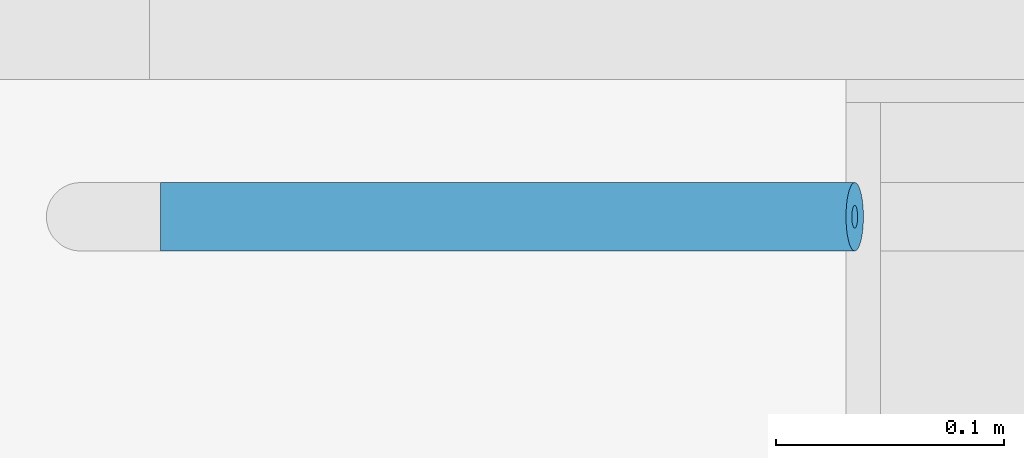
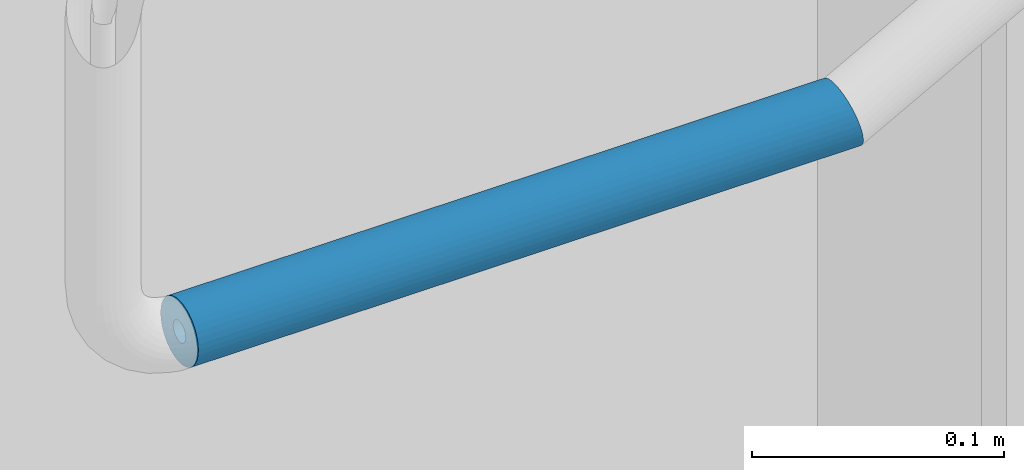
# One storey, part 218 of 301: 1 building element part, 1 element without a shape of its own.
"""IFC2X3 building model written with IfcOpenShell, lengths in millimetres."""

from ifc_helpers import new_model, entity, si_unit, converted_unit, derived_unit, money_unit, direction, frame, origin_with_axes, place, context, subcontext, project, spatial, faceted_brep, material, type_object, element, aggregate, save


model = new_model("IFC2X3")

# Units and contexts
model_context = context("Model", 3, precision=0.01, world=origin_with_axes(), true_north=direction((0.0, 1.0)))
body_context = subcontext(model_context, "Body", "Model", "MODEL_VIEW")
ifc_project = project(units=[si_unit("LENGTHUNIT", "METRE", prefix="MILLI"), si_unit("AREAUNIT", "SQUARE_METRE"), si_unit("VOLUMEUNIT", "CUBIC_METRE"), converted_unit("PLANEANGLEUNIT", "DEGREE", entity("IfcPlaneAngleMeasure", 0.0174532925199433), si_unit("PLANEANGLEUNIT", "RADIAN"), dimensions=[0, 0, 0, 0, 0, 0, 0]), money_unit("EUR"), converted_unit("TIMEUNIT", "Year", entity("IfcTimeMeasure", 31557600.0), si_unit("TIMEUNIT", "SECOND"), dimensions=[0, 0, 1, 0, 0, 0, 0]), si_unit("MASSUNIT", "GRAM", prefix="KILO"), si_unit("THERMODYNAMICTEMPERATUREUNIT", "DEGREE_CELSIUS"), si_unit("LUMINOUSINTENSITYUNIT", "LUMEN"), si_unit("ENERGYUNIT", "JOULE", prefix="MEGA"), derived_unit("THERMALCONDUCTANCEUNIT", [(si_unit("POWERUNIT", "WATT"), 1), (si_unit("LENGTHUNIT", "METRE"), -1), (si_unit("THERMODYNAMICTEMPERATUREUNIT", "KELVIN"), -1)]), derived_unit("SPECIFICHEATCAPACITYUNIT", [(si_unit("ENERGYUNIT", "JOULE"), 1), (si_unit("MASSUNIT", "GRAM", prefix="KILO"), -1), (si_unit("THERMODYNAMICTEMPERATUREUNIT", "KELVIN"), -1)]), derived_unit("MASSDENSITYUNIT", [(si_unit("MASSUNIT", "GRAM", prefix="KILO"), 1), (si_unit("VOLUMEUNIT", "CUBIC_METRE"), -1)])], contexts=[model_context])

# Site, building, storey
site_placement = place(None, frame((0.0, 0.0, 8650.0), z_axis=(0.0, 0.0, 1.0), x_axis=(1.0, 0.0, 0.0)))
site = spatial("IfcSite", under=ifc_project, at=site_placement, Name="43301:001:0844", CompositionType="ELEMENT")
building_placement = place(site_placement, origin_with_axes())
building = spatial("IfcBuilding", under=site, at=building_placement, Name="Kuressaare Ametikooli tuulikute mehaanikute õppekorpus", CompositionType="ELEMENT")
storey_placement = place(building_placement, origin_with_axes())
storey = spatial("IfcBuildingStorey", under=building, at=storey_placement, Name="1.korrus", CompositionType="ELEMENT", Elevation=0.0)

# Railing, building element part
railing_type = type_object("IfcRailingType", Name="Railing Type", PredefinedType="NOTDEFINED")
railing_placement = place(storey_placement, frame((107882.9493746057, 28359.57374875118, 157.6923606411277), z_axis=(0.0, 0.0, 1.0), x_axis=(1.0, 0.0, 0.0)))
railing = element("IfcRailing", 1, at=railing_placement, inside=storey, type_object=railing_type, Name="Piire", PredefinedType="NOTDEFINED")
ifc_material = material(Name="Metall - Teras - Roostevaba")
building_element_part_placement = place(railing_placement, origin_with_axes())
building_element_part = element("IfcBuildingElementPart", 2, at=building_element_part_placement, material=ifc_material, Name="Metall - Teras - Roostevaba", context=body_context, shape_type="Brep", body=[
    faceted_brep([(-917.032179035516, -75.0000000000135, 684.9999999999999), (-917.6945623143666, -74.77211629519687, 687.6047226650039), (-1220.846692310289, -74.77211629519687, 687.6047226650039), (-1220.846692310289, -75.0000000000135, 684.9999999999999), (-916.3697957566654, -74.77211629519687, 682.3952773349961), (-915.7275386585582, -74.09538931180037, 679.869697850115), (-915.1249223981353, -72.9903810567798, 677.5), (-914.5802571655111, -71.49066664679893, 675.3581858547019), (-914.1100923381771, -69.64181414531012, 673.5093333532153), (-913.7287136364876, -67.50000000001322, 672.0096189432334), (-913.4477090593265, -65.13030214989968, 670.9046106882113), (-913.2756167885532, -62.60472266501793, 670.2278837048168), (-913.2176657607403, -60.00000000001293, 669.9999999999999), (-913.2756167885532, -57.39527733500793, 670.2278837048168), (-913.4477090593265, -54.86969785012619, 670.9046106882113), (-913.7287136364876, -52.50000000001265, 672.0096189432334), (-914.1100923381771, -50.35818585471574, 673.5093333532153), (-914.5802571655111, -48.50933335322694, 675.3581858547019), (-915.1249223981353, -47.00961894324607, 677.5), (-915.7275386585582, -45.90461068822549, 679.869697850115), (-916.3697957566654, -45.227883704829, 682.395277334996), (-917.032179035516, -45.00000000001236, 684.9999999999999), (-917.6945623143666, -45.227883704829, 687.6047226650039), (-918.3368194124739, -45.90461068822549, 690.130302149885), (-918.939435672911, -47.00961894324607, 692.5), (-919.484100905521, -48.50933335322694, 694.641814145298), (-919.954265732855, -50.35818585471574, 696.4906666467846), (-920.3356444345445, -52.50000000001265, 697.9903810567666), (-920.6166490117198, -54.86969785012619, 699.0953893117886), (-920.7887412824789, -57.39527733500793, 699.7721162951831), (-920.8466923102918, -60.00000000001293, 700.0), (-920.7887412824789, -62.60472266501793, 699.7721162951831), (-920.6166490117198, -65.13030214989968, 699.0953893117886), (-920.3356444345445, -67.50000000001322, 697.9903810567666), (-919.954265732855, -69.64181414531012, 696.4906666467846), (-919.484100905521, -71.49066664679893, 694.641814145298), (-918.939435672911, -72.9903810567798, 692.5), (-918.3368194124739, -74.09538931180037, 690.130302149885), (-917.032179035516, -65.00000000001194, 684.9999999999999), (-917.2529734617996, -64.92403876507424, 685.8682408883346), (-917.4670591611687, -64.6984631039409, 686.7101007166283), (-917.6679312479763, -64.33012701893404, 687.5), (-917.8494863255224, -63.83022221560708, 688.2139380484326), (-918.0062079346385, -63.21393804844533, 688.8302222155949), (-918.1333341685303, -62.50000000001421, 689.3301270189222), (-918.227002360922, -61.71010071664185, 689.6984631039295), (-918.2843664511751, -60.86824088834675, 689.924038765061), (-918.3036834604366, -60.00000000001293, 690.0), (-918.2843664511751, -59.13175911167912, 689.924038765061), (-918.227002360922, -58.28989928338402, 689.6984631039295), (-918.1333341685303, -57.50000000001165, 689.3301270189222), (-918.0062079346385, -56.78606195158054, 688.8302222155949), (-917.8494863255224, -56.16977778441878, 688.2139380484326), (-917.6679312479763, -55.66987298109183, 687.5), (-917.4670591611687, -55.30153689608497, 686.7101007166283), (-917.2529734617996, -55.07596123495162, 685.8682408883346), (-917.032179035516, -55.00000000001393, 684.9999999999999), (-916.8113846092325, -55.07596123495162, 684.1317591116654), (-916.5972989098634, -55.30153689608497, 683.2898992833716), (-916.3964268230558, -55.66987298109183, 682.5), (-916.2148717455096, -56.16977778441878, 681.7860619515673), (-916.0581501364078, -56.78606195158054, 681.169777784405), (-915.9310239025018, -57.50000000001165, 680.6698729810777), (-915.8373557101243, -58.28989928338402, 680.3015368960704), (-915.779991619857, -59.13175911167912, 680.075961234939), (-915.7606746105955, -60.00000000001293, 679.9999999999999), (-915.779991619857, -60.86824088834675, 680.075961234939), (-915.8373557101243, -61.71010071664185, 680.3015368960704), (-915.9310239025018, -62.50000000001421, 680.6698729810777), (-916.0581501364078, -63.21393804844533, 681.169777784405), (-916.2148717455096, -63.83022221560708, 681.7860619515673), (-916.3964268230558, -64.33012701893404, 682.5), (-916.5972989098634, -64.6984631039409, 683.2898992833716), (-916.8113846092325, -64.92403876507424, 684.1317591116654), (-1220.846692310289, -74.09538931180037, 690.130302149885), (-1220.846692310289, -72.9903810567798, 692.5), (-1220.846692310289, -71.49066664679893, 694.641814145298), (-1220.846692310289, -69.64181414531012, 696.4906666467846), (-1220.846692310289, -67.50000000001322, 697.9903810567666), (-1220.846692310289, -65.13030214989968, 699.0953893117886), (-1220.846692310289, -62.60472266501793, 699.7721162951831), (-1220.846692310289, -60.00000000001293, 700.0), (-1220.846692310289, -57.39527733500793, 699.7721162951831), (-1220.846692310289, -54.86969785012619, 699.0953893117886), (-1220.846692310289, -52.50000000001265, 697.9903810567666), (-1220.846692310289, -50.35818585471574, 696.4906666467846), (-1220.846692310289, -48.50933335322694, 694.641814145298), (-1220.846692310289, -47.00961894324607, 692.5), (-1220.846692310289, -45.90461068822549, 690.130302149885), (-1220.846692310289, -45.227883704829, 687.6047226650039), (-1220.846692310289, -45.00000000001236, 684.9999999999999), (-1220.846692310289, -45.227883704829, 682.395277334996), (-1220.846692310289, -45.90461068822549, 679.869697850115), (-1220.846692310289, -47.00961894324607, 677.5), (-1220.846692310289, -48.50933335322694, 675.3581858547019), (-1220.846692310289, -50.35818585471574, 673.5093333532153), (-1220.846692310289, -52.50000000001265, 672.0096189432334), (-1220.846692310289, -54.86969785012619, 670.9046106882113), (-1220.846692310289, -57.39527733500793, 670.2278837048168), (-1220.846692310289, -60.00000000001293, 669.9999999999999), (-1220.846692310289, -62.60472266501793, 670.2278837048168), (-1220.846692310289, -65.13030214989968, 670.9046106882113), (-1220.846692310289, -67.50000000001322, 672.0096189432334), (-1220.846692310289, -69.64181414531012, 673.5093333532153), (-1220.846692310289, -71.49066664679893, 675.3581858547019), (-1220.846692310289, -72.9903810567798, 677.5), (-1220.846692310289, -74.09538931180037, 679.869697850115), (-1220.846692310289, -74.77211629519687, 682.3952773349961), (-1220.846692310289, -65.00000000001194, 684.9999999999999), (-1220.846692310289, -64.92403876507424, 684.1317591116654), (-1220.846692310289, -64.6984631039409, 683.2898992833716), (-1220.846692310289, -64.33012701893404, 682.5), (-1220.846692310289, -63.83022221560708, 681.7860619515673), (-1220.846692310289, -63.21393804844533, 681.169777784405), (-1220.846692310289, -62.50000000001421, 680.6698729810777), (-1220.846692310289, -61.71010071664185, 680.3015368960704), (-1220.846692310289, -60.86824088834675, 680.075961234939), (-1220.846692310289, -60.00000000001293, 679.9999999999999), (-1220.846692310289, -59.13175911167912, 680.075961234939), (-1220.846692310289, -58.28989928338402, 680.3015368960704), (-1220.846692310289, -57.50000000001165, 680.6698729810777), (-1220.846692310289, -56.78606195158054, 681.169777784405), (-1220.846692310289, -56.16977778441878, 681.7860619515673), (-1220.846692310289, -55.66987298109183, 682.5), (-1220.846692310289, -55.30153689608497, 683.2898992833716), (-1220.846692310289, -55.07596123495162, 684.1317591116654), (-1220.846692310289, -55.00000000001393, 684.9999999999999), (-1220.846692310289, -55.07596123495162, 685.8682408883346), (-1220.846692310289, -55.30153689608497, 686.7101007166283), (-1220.846692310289, -55.66987298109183, 687.5), (-1220.846692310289, -56.16977778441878, 688.2139380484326), (-1220.846692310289, -56.78606195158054, 688.8302222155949), (-1220.846692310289, -57.50000000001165, 689.3301270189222), (-1220.846692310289, -58.28989928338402, 689.6984631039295), (-1220.846692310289, -59.13175911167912, 689.924038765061), (-1220.846692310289, -60.00000000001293, 690.0), (-1220.846692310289, -60.86824088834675, 689.924038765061), (-1220.846692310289, -61.71010071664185, 689.6984631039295), (-1220.846692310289, -62.50000000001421, 689.3301270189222), (-1220.846692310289, -63.21393804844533, 688.8302222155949), (-1220.846692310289, -63.83022221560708, 688.2139380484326), (-1220.846692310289, -64.33012701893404, 687.5), (-1220.846692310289, -64.6984631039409, 686.7101007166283), (-1220.846692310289, -64.92403876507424, 685.8682408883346)], [[[0, 1, 2, 3]], [[0, 4, 5, 6, 7, 8, 9, 10, 11, 12, 13, 14, 15, 16, 17, 18, 19, 20, 21, 22, 23, 24, 25, 26, 27, 28, 29, 30, 31, 32, 33, 34, 35, 36, 37, 1], [38, 39, 40, 41, 42, 43, 44, 45, 46, 47, 48, 49, 50, 51, 52, 53, 54, 55, 56, 57, 58, 59, 60, 61, 62, 63, 64, 65, 66, 67, 68, 69, 70, 71, 72, 73]], [[1, 37, 74, 2]], [[3, 2, 74, 75, 76, 77, 78, 79, 80, 81, 82, 83, 84, 85, 86, 87, 88, 89, 90, 91, 92, 93, 94, 95, 96, 97, 98, 99, 100, 101, 102, 103, 104, 105, 106, 107], [108, 109, 110, 111, 112, 113, 114, 115, 116, 117, 118, 119, 120, 121, 122, 123, 124, 125, 126, 127, 128, 129, 130, 131, 132, 133, 134, 135, 136, 137, 138, 139, 140, 141, 142, 143]], [[4, 0, 3, 107]], [[5, 4, 107, 106]], [[6, 5, 106, 105]], [[7, 6, 105, 104]], [[8, 7, 104, 103]], [[9, 8, 103, 102]], [[10, 9, 102, 101]], [[11, 10, 101, 100]], [[12, 11, 100, 99]], [[13, 12, 99, 98]], [[14, 13, 98, 97]], [[15, 14, 97, 96]], [[16, 15, 96, 95]], [[17, 16, 95, 94]], [[18, 17, 94, 93]], [[19, 18, 93, 92]], [[20, 19, 92, 91]], [[21, 20, 91, 90]], [[22, 21, 90, 89]], [[23, 22, 89, 88]], [[24, 23, 88, 87]], [[25, 24, 87, 86]], [[26, 25, 86, 85]], [[27, 26, 85, 84]], [[28, 27, 84, 83]], [[29, 28, 83, 82]], [[30, 29, 82, 81]], [[31, 30, 81, 80]], [[32, 31, 80, 79]], [[33, 32, 79, 78]], [[34, 33, 78, 77]], [[35, 34, 77, 76]], [[36, 35, 76, 75]], [[37, 36, 75, 74]], [[39, 38, 108, 143]], [[40, 39, 143, 142]], [[41, 40, 142, 141]], [[42, 41, 141, 140]], [[43, 42, 140, 139]], [[44, 43, 139, 138]], [[45, 44, 138, 137]], [[46, 45, 137, 136]], [[47, 46, 136, 135]], [[48, 47, 135, 134]], [[49, 48, 134, 133]], [[50, 49, 133, 132]], [[51, 50, 132, 131]], [[52, 51, 131, 130]], [[53, 52, 130, 129]], [[54, 53, 129, 128]], [[55, 54, 128, 127]], [[56, 55, 127, 126]], [[57, 56, 126, 125]], [[58, 57, 125, 124]], [[59, 58, 124, 123]], [[60, 59, 123, 122]], [[61, 60, 122, 121]], [[62, 61, 121, 120]], [[63, 62, 120, 119]], [[64, 63, 119, 118]], [[65, 64, 118, 117]], [[66, 65, 117, 116]], [[67, 66, 116, 115]], [[68, 67, 115, 114]], [[69, 68, 114, 113]], [[70, 69, 113, 112]], [[71, 70, 112, 111]], [[72, 71, 111, 110]], [[73, 72, 110, 109]], [[38, 73, 109, 108]]]),
])
aggregate(railing, [building_element_part])

save(model, "model.ifc")
